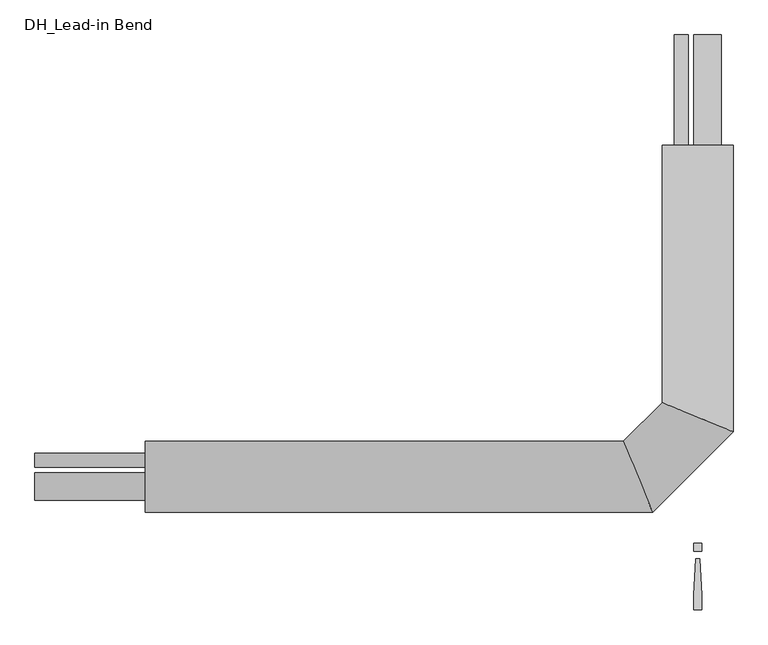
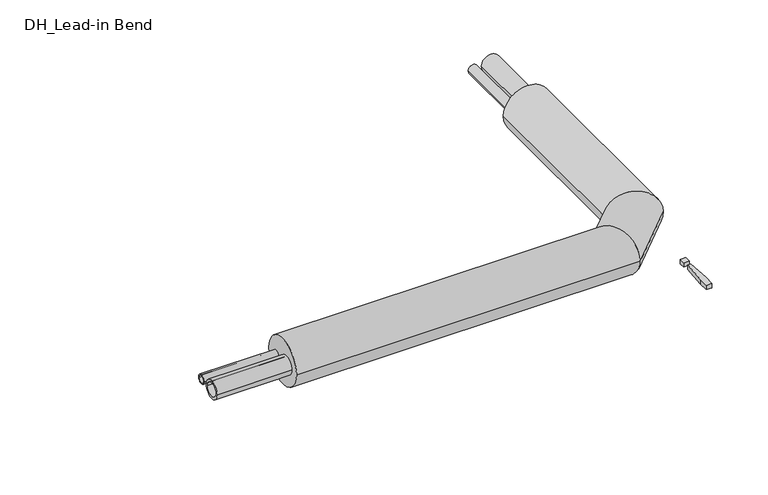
"""IFC4 building model written with IfcOpenShell, lengths in millimetres: pipe fitting geometry, DH_Lead-in Bend : INSULPEX DUO 7.4 DW Vertical."""

from ifc_helpers import new_model, si_unit, point, frame, frame_2d, origin, origin_with_axes, place, context, project, spatial, polyline, circle_curve, ellipse_curve, trimmed, segment, composite_curve, outline, extrude, source, transform, mapped, element, save
from ifc_brep_helpers import plane_surface, cylinder_surface, advanced_brep


def dh_lead_in_bend_112a9a77(model_context):
    return source(origin(), model_context, "Body", "SolidModel", [
        extrude(outline(composite_curve([segment(trimmed(circle_curve(frame_2d((-22.0, 0.0)), 31.5), [point((9.5, 0.0))], [point((-53.5, 0.0))], False, "CARTESIAN"), True, "CONTINUOUS"), segment(trimmed(circle_curve(frame_2d((-22.0, 0.0)), 31.5), [point((-53.5, 0.0))], [point((9.5, 0.0))], False, "CARTESIAN"), True, "CONTINUOUS")], self_intersect=False), holes=[composite_curve([segment(trimmed(circle_curve(frame_2d((-22.0, 0.0)), 22.9), [point((0.9, 0.0))], [point((-44.9, 0.0))], True, "CARTESIAN"), True, "CONTINUOUS"), segment(trimmed(circle_curve(frame_2d((-22.0, 0.0)), 22.9), [point((-44.9, 0.0))], [point((0.9, 0.0))], True, "CARTESIAN"), True, "CONTINUOUS")], self_intersect=False)]), frame((-1500.0, 0.0, 0.0), z_axis=(1.0, 0.0, 0.0), x_axis=(0.0, 1.0, 0.0)), (0.0, 0.0, 1.0), 250.0),
        advanced_brep(
        [(-1250.0, -80.0, 0.0), (-1250.0, 80.0, 0.0), (-101.862915, -80.0, 0.0), (-168.137085, 80.0, 0.0), (80.0, 750.0, 0.0), (-80.0, 750.0, 0.0), (-80.0, 168.137085, 0.0), (80.0, 101.862915, 0.0)],
        [
            (0, 1, circle_curve(frame((-1250.0, 0.0, 0.0), z_axis=(-1.0, 0.0, 0.0), x_axis=(0.0, 1.0, 0.0)), 80.0)),
            (1, 0, circle_curve(frame((-1250.0, 0.0, 0.0), z_axis=(-1.0, 0.0, 0.0), x_axis=(0.0, 1.0, 0.0)), 80.0)),
            (0, 2),
            (2, 3, ellipse_curve(frame((-135.0, 0.0, 0.0), z_axis=(-0.9238795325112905, -0.3826834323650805, 0.0), x_axis=(-0.38268343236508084, 0.9238795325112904, 0.0)), 86.591376, 80.0)),
            (3, 1),
            (3, 2, ellipse_curve(frame((-135.0, 0.0, 0.0), z_axis=(-0.9238795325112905, -0.3826834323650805, 0.0), x_axis=(-0.38268343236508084, 0.9238795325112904, 0.0)), 86.591376, 80.0)),
            (4, 5, circle_curve(frame((0.0, 750.0, 0.0), z_axis=(0.0, 1.0, 0.0), x_axis=(-1.0, 0.0, 0.0)), 80.0)),
            (5, 4, circle_curve(frame((0.0, 750.0, 0.0), z_axis=(0.0, 1.0, 0.0), x_axis=(-1.0, 0.0, 0.0)), 80.0)),
            (6, 7, ellipse_curve(frame((0.0, 135.0, 0.0), z_axis=(0.382683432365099, 0.923879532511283, 0.0), x_axis=(0.923879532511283, -0.3826834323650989, 0.0)), 86.591376, 80.0)),
            (7, 4),
            (5, 6),
            (7, 6, ellipse_curve(frame((0.0, 135.0, 0.0), z_axis=(0.382683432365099, 0.923879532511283, 0.0), x_axis=(0.923879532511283, -0.3826834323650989, 0.0)), 86.591376, 80.0)),
            (2, 7),
            (6, 3),
        ],
        [
            plane_surface(frame((-1250.0, 0.0, 0.0), z_axis=(-1.0, 0.0, 0.0), x_axis=(0.0, 0.0, 1.0))),
            cylinder_surface(frame((-1250.0, 0.0, 0.0), z_axis=(-1.0, 0.0, 0.0), x_axis=(0.0, 1.0, 0.0)), 80.0),
            plane_surface(frame((0.0, 750.0, 0.0), z_axis=(0.0, 1.0, 0.0), x_axis=(0.0, 0.0, 1.0))),
            cylinder_surface(frame((0.0, 135.0, 0.0), z_axis=(0.0, -1.0, 0.0), x_axis=(-1.0, 0.0, 0.0)), 80.0),
            cylinder_surface(frame((-135.0, 0.0, 0.0), z_axis=(-0.7071067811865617, -0.7071067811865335, 0.0), x_axis=(-0.7071067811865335, 0.7071067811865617, 0.0)), 80.0),
        ],
        [
            (0, [[1, 2]]),
            (1, [[-1, 3, 4, 5]]),
            (1, [[-2, -5, 6, -3]]),
            (2, [[7, 8]]),
            (3, [[9, 10, -8, 11]]),
            (3, [[12, -11, -7, -10]]),
            (4, [[-4, 13, -9, 14]]),
            (4, [[-6, -14, -12, -13]]),
        ],
    ),
        extrude(outline(composite_curve([segment(trimmed(circle_curve(frame_2d((0.0, -37.5)), 16.0), [point((0.0, -21.5))], [point((0.0, -53.5))], False, "CARTESIAN"), True, "CONTINUOUS"), segment(trimmed(circle_curve(frame_2d((0.0, -37.5)), 16.0), [point((0.0, -53.5))], [point((0.0, -21.5))], False, "CARTESIAN"), True, "CONTINUOUS")], self_intersect=False), holes=[composite_curve([segment(trimmed(circle_curve(frame_2d((0.0, -37.5)), 11.6), [point((0.0, -25.9))], [point((0.0, -49.1))], True, "CARTESIAN"), True, "CONTINUOUS"), segment(trimmed(circle_curve(frame_2d((0.0, -37.5)), 11.6), [point((0.0, -49.1))], [point((0.0, -25.9))], True, "CARTESIAN"), True, "CONTINUOUS")], self_intersect=False)]), frame((0.0, 750.0, 0.0), z_axis=(0.0, 1.0, 0.0), x_axis=(0.0, 0.0, 1.0)), (0.0, 0.0, 1.0), 250.0),
        extrude(outline(composite_curve([segment(trimmed(circle_curve(frame_2d((37.5, 0.0)), 16.0), [point((21.5, 0.0))], [point((53.5, 0.0))], False, "CARTESIAN"), True, "CONTINUOUS"), segment(trimmed(circle_curve(frame_2d((37.5, 0.0)), 16.0), [point((53.5, 0.0))], [point((21.5, 0.0))], False, "CARTESIAN"), True, "CONTINUOUS")], self_intersect=False), holes=[composite_curve([segment(trimmed(circle_curve(frame_2d((37.5, 0.0)), 11.6), [point((25.9, 0.0))], [point((49.1, 0.0))], True, "CARTESIAN"), True, "CONTINUOUS"), segment(trimmed(circle_curve(frame_2d((37.5, 0.0)), 11.6), [point((49.1, 0.0))], [point((25.9, 0.0))], True, "CARTESIAN"), True, "CONTINUOUS")], self_intersect=False)]), frame((-1500.0, 0.0, 0.0), z_axis=(1.0, 0.0, 0.0), x_axis=(0.0, 1.0, 0.0)), (0.0, 0.0, 1.0), 250.0),
        extrude(outline(composite_curve([segment(trimmed(circle_curve(frame_2d((0.0, 22.0)), 31.5), [point((0.0, -9.5))], [point((0.0, 53.5))], False, "CARTESIAN"), True, "CONTINUOUS"), segment(trimmed(circle_curve(frame_2d((0.0, 22.0)), 31.5), [point((0.0, 53.5))], [point((0.0, -9.5))], False, "CARTESIAN"), True, "CONTINUOUS")], self_intersect=False), holes=[composite_curve([segment(trimmed(circle_curve(frame_2d((0.0, 22.0)), 22.9), [point((0.0, -0.9))], [point((0.0, 44.9))], True, "CARTESIAN"), True, "CONTINUOUS"), segment(trimmed(circle_curve(frame_2d((0.0, 22.0)), 22.9), [point((0.0, 44.9))], [point((0.0, -0.9))], True, "CARTESIAN"), True, "CONTINUOUS")], self_intersect=False)]), frame((0.0, 750.0, 0.0), z_axis=(0.0, 1.0, 0.0), x_axis=(0.0, 0.0, 1.0)), (0.0, 0.0, 1.0), 250.0),
        extrude(outline(polyline([(4.7088895, -185.3166715), (9.4177791, -266.6553807), (9.4177791, -300.6844652), (-9.4177791, -300.6844652), (-9.4177791, -266.6553807), (-4.7088895, -185.3166715), (4.7088895, -185.3166715)])), origin_with_axes(), (0.0, 0.0, 1.0), 15.0),
        extrude(outline(polyline([(9.4177791, -150.0), (9.4177791, -168.8355582), (-9.4177791, -168.8355582), (-9.4177791, -150.0), (9.4177791, -150.0)])), origin_with_axes(), (0.0, 0.0, 1.0), 15.0),
    ])


if __name__ == "__main__":
    model = new_model("IFC4")
    model_context = context("Model", 3, world=origin())
    ifc_project = project(units=[si_unit("LENGTHUNIT", "METRE", prefix="MILLI")], contexts=[model_context])
    site = spatial("IfcSite", under=ifc_project)
    building = spatial("IfcBuilding", under=site)
    placement = place(None, origin())
    dh_lead_in_bend_shape = dh_lead_in_bend_112a9a77(model_context)
    element("IfcPipeFitting", 1, ObjectType="DH_Lead-in Bend : INSULPEX DUO 7.4 DW Vertical", at=placement, inside=building, context=model_context, shape_type="MappedRepresentation", body=[
        mapped(dh_lead_in_bend_shape, transform((0.0, 0.0, 0.0), x_axis=(1.0, 0.0, 0.0), y_axis=(0.0, 1.0, 0.0), z_axis=(0.0, 0.0, 1.0))),
    ])
    save(model, "model.ifc")
